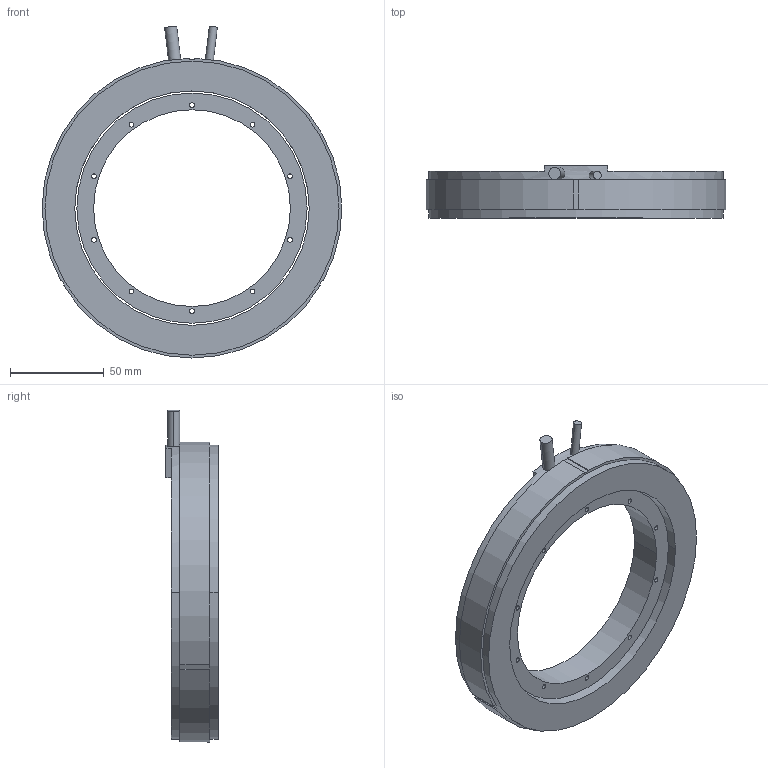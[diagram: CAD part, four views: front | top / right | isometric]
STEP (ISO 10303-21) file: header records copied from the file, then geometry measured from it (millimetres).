
FILE_DESCRIPTION (( 'STEP AP203' ), '1' );
FILE_NAME ('TMX160-25 3D.STEP', '2022-11-23T02:31:00', ( '' ), ( '' ), 'SwSTEP 2.0', 'SolidWorks 2021', '' );
FILE_SCHEMA (( 'CONFIG_CONTROL_DESIGN' ));
Length unit declared in the file: millimetre
Products named in the file (3): TMX160-25 KIT 3D; TMX160-25 3D; TM160-25 3D
Assembly tree (2 placements, depth 2):
  TMX160-25 3D
    TM160-25 3D
    TMX160-25 KIT 3D
Bounding box: 160 x 28 x 177.21 mm (x, y, z)
Volume: 243270.1 mm3; surface area: 58391 mm2
Topology: 2 solids, 2 shells, 58 faces, 153 edges, 102 vertices
Faces by surface type: cylinder 38, plane 20
Entity records: 2300 total; most frequent: CARTESIAN_POINT 440, DIRECTION 351, ORIENTED_EDGE 306, EDGE_CURVE 153, AXIS2_PLACEMENT_3D 139, VERTEX_POINT 102, EDGE_LOOP 85, CIRCLE 76
